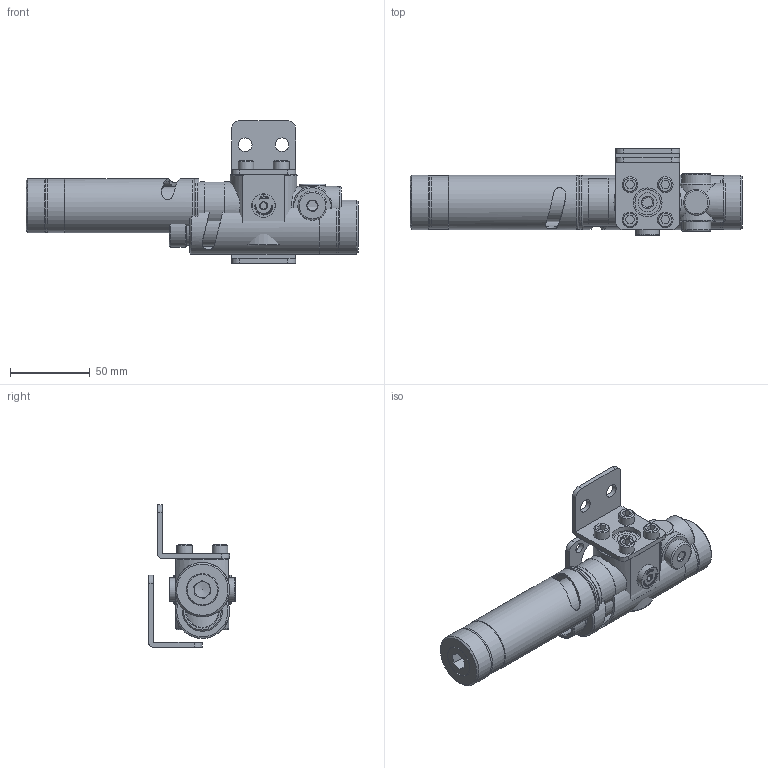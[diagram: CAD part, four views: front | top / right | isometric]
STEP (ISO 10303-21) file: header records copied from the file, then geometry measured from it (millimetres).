
FILE_DESCRIPTION( ( 'Unknown' ), '1' );
FILE_NAME( 'D:/NAS悼扁拳/累诀/NAS 眠啊/SPEEDER/3D/VSM303S-12F-BT12.stp', 'Unknown', ( 'Unknown' ), ( 'Unknown' ), 'PSStep 10.0', 'Unknown', ' ' );
FILE_SCHEMA( ( 'AUTOMOTIVE_DESIGN { 1 0 10303 214 1 1 1 1 }' ) );
Length unit declared in the file: millimetre
Products named in the file (10): Assem2; Assem1; speeder moudle_20130528_0; VTTS-M25_New_0; Plug14_New_PPS_0; Plug18_New_PPS; Plug18_New_PPS-oa0; 14M-End cap; L-bracket(VSM303); M6XL15
Bounding box: 207.5 x 54.25 x 89.1 mm (x, y, z)
Surface area: 199273.1 mm2 (no closed solid volume)
Topology: 0 solids, 1471 shells, 1476 faces, 6697 edges, 6397 vertices
Faces by surface type: plane 906, cylinder 213, extrusion 124, cone 100, torus 67, bspline 66
Full cylindrical faces by diameter (mm): 4.917 x12, 5.9 x5, 6.5 x8, 8.5 x4, 9.8 x5, 10 x3, 11 x2, 11.445 x18, 11.835 x3, 12.8 x4, 14.8 x4, 15.8 x2, 16 x3, 16.5 x5, 17 x3, 18 x2, 18.2 x5, 18.631 x3, 20 x9, 22.7 x3, 22.835 x3, 24 x9, 25 x3, 25.2 x3, 29.6 x3, 30 x6, 31 x3, 33 x3, 33.56 x3, 33.6 x3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
Entity records: 44428 total; most frequent: CARTESIAN_POINT 19029, DIRECTION 3828, ORIENTED_EDGE 2704, EDGE_CURVE 2704, VERTEX_POINT 2704, VECTOR 1918, LINE 1856, AXIS2_PLACEMENT_3D 955
